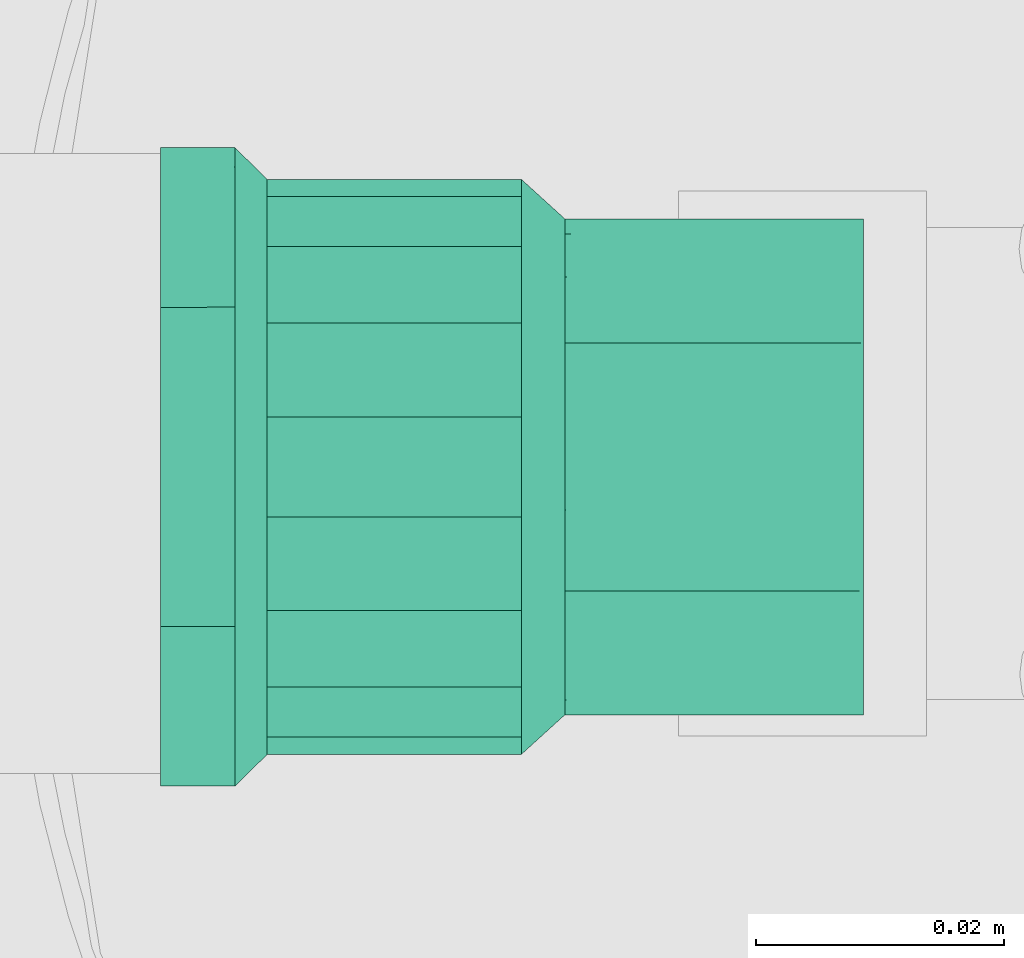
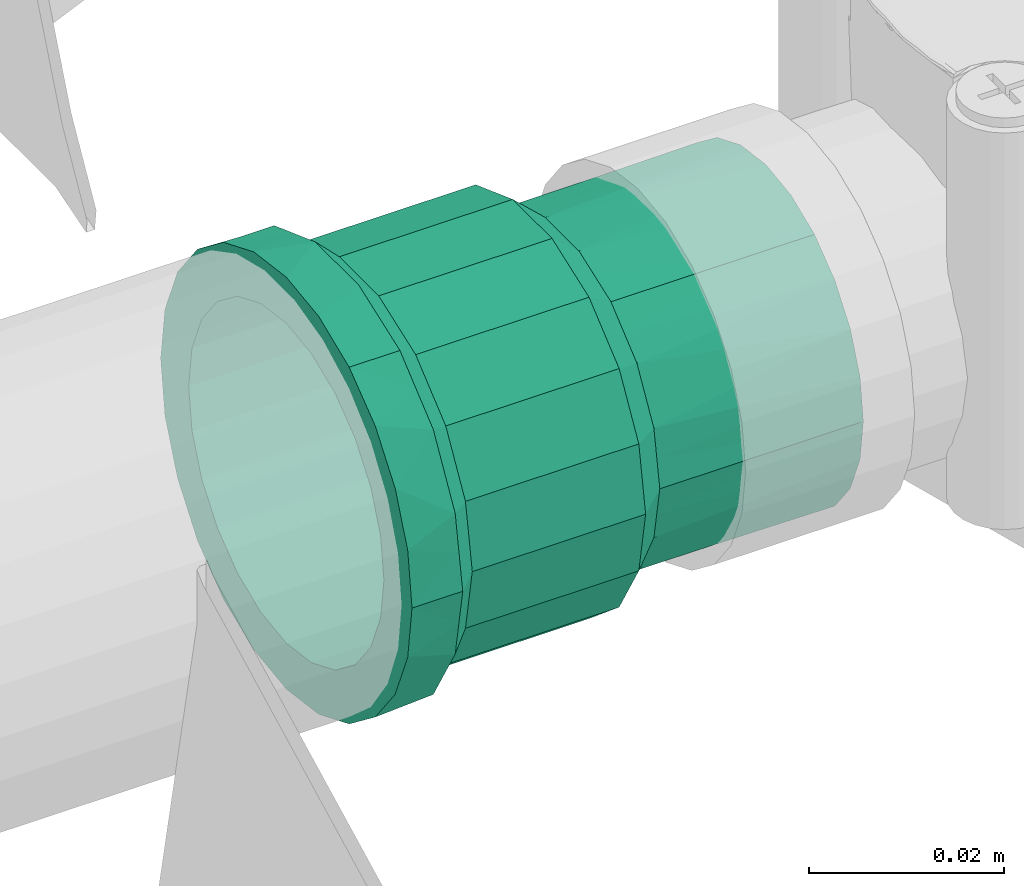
# One storey, part 143 of 166: 1 flow fitting.
"""IFC2X3 building model written with IfcOpenShell, lengths in metres."""

from ifc_helpers import new_model, entity, si_unit, converted_unit, direction, frame, origin, place, context, subcontext, project, spatial, faceted_brep, source, transform, mapped, material, type_object, type_shapes, element, save


model = new_model("IFC2X3")

# Units and contexts
model_context = context("Model", 3, precision=1e-05, world=origin(), true_north=direction((6.123233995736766e-17, 1.0)))
body_context = subcontext(model_context, "Body", "Model", "MODEL_VIEW")
ifc_project = project(units=[si_unit("LENGTHUNIT", "METRE"), converted_unit("PLANEANGLEUNIT", "DEGREE", entity("IfcPlaneAngleMeasure", 0.017453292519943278), si_unit("PLANEANGLEUNIT", "RADIAN"), dimensions=[0, 0, 0, 0, 0, 0, 0]), si_unit("AREAUNIT", "SQUARE_METRE")], contexts=[model_context])

# Site, building, storey
site_placement = place(None, origin())
site = spatial("IfcSite", under=ifc_project, at=site_placement, Name="Default", CompositionType="ELEMENT")
building_placement = place(site_placement, origin())
building = spatial("IfcBuilding", under=site, at=building_placement, Name="CASA DE ACOLHIDA PARA IDOSOS", CompositionType="ELEMENT")
storey_placement = place(building_placement, frame((0.0, 0.0, -1.7499999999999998)))
storey = spatial("IfcBuildingStorey", under=building, at=storey_placement, Name="IMPLANTAÇÃO DRENAGEM", CompositionType="ELEMENT", Elevation=-1.7499999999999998)

# Flow fitting
ifc_material = material(Name="PVC Marrom")
pipe_fitting_type = type_object("IfcPipeFittingType", Name="AF_Soldavel_Adaptador Curto com Bolsa e Rosca:Standard", PredefinedType="NOTDEFINED", material=ifc_material)
shared_shape = source(origin(), body_context, "Body", "Brep", [
    faceted_brep([(0.0, 0.0099999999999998, -0.017320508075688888), (0.0, 0.018207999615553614, -0.018207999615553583), (0.0, 0.012875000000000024, -0.02230015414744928), (0.0, 0.014142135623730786, -0.014142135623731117), (0.0, 0.0051763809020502, -0.019318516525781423), (0.0, 0.022300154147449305, -0.01287499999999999), (0.0, 0.01732050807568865, -0.01000000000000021), (0.0, 0.0193185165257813, -0.005176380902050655), (0.0, 0.02487259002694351, -0.006664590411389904), (0.0, 0.02, 0.0), (0.0, 0.025750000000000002, 0.0), (0.0, 0.019318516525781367, 0.00517638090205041), (0.0, 0.024872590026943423, 0.006664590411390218), (0.0, 0.01732050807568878, 0.00999999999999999), (0.0, 0.02230015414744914, 0.012875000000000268), (0.0, 0.014142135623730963, 0.014142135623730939), (0.0, 0.018207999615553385, 0.018207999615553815), (0.0, 0.010000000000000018, 0.017320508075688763), (0.0, 0.012874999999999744, 0.022300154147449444), (0.0, 0.00517638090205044, 0.01931851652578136), (0.0, 0.006664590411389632, 0.024872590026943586), (0.0, 0.0, 0.02), (0.0, 0.0, 0.025750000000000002), (0.0, -0.005176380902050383, 0.019318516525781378), (0.0, -0.0066645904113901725, 0.024872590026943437), (0.0, -0.009999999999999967, 0.017320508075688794), (0.0, -0.012875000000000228, 0.022300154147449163), (0.0, -0.01414213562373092, 0.014142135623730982), (0.0, -0.01820799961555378, 0.01820799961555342), (0.0, -0.01732050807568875, 0.010000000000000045), (0.0, -0.02230015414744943, 0.012874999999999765), (0.0, -0.024872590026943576, 0.006664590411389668), (0.0, -0.01931851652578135, 0.005176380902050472), (0.0, -0.025750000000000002, 0.0), (0.0, -0.02, 0.0), (0.0, -0.02487259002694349, -0.006664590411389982), (0.0, -0.01931851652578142, -0.005176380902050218), (0.0, -0.02230015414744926, -0.012875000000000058), (0.0, -0.01732050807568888, -0.009999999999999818), (0.0, -0.01820799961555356, -0.018207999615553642), (0.0, -0.014142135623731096, -0.014142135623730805), (0.0, -0.012874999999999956, -0.022300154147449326), (0.0, -0.010000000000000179, -0.01732050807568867), (0.0, -0.006664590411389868, -0.024872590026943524), (0.0, -0.005176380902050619, -0.01931851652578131), (0.0, 0.0, -0.025750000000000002), (0.0, 0.0, -0.02), (0.0, 0.006664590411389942, -0.0248725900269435), (0.005999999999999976, -0.024973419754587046, 0.004403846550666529), (0.005999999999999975, -0.024768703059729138, 0.005564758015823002), (0.005999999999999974, -0.024196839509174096, 0.008807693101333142), (0.005999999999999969, -0.019724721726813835, 0.016552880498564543), (0.005999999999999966, -0.016298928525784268, 0.019427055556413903), (0.005999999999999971, -0.021960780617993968, 0.012680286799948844), (0.005999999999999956, -0.004468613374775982, 0.02535929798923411), (0.00599999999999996, -0.008670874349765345, 0.02383026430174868), (0.0059999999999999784, -0.025750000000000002, 0.0), (0.0059999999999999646, -0.01287313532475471, 0.02230123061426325), (0.005999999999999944, 0.008676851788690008, 0.023828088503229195), (0.00599999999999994, 0.012878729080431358, 0.022298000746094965), (0.005999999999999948, 0.004474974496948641, 0.02535817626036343), (0.005999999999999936, 0.016303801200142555, 0.019422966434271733), (0.005999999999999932, 0.019728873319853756, 0.016547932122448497), (0.005999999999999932, 0.024199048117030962, 0.008801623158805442), (0.0059999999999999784, 0.025750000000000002, 0.0), (0.005999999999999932, 0.021963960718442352, 0.012674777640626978), (0.0059999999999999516, 3.180561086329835e-06, 0.02535873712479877), (0.006000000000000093, 0.024199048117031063, -0.00880162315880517), (0.006000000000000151, 0.019728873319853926, -0.016547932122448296), (0.006000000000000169, 0.01630380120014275, -0.019422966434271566), (0.006000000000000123, 0.021963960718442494, -0.012674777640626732), (0.006000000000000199, 0.004474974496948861, -0.025358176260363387), (0.006000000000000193, 0.008676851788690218, -0.023828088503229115), (0.006000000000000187, 0.012878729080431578, -0.02229800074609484), (0.006000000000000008, -0.02497341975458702, -0.004403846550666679), (0.006000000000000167, -0.008670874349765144, -0.023830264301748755), (0.0060000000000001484, -0.012873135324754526, -0.022301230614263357), (0.006000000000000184, -0.004468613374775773, -0.02535929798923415), (0.006000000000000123, -0.016298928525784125, -0.019427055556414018), (0.006000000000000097, -0.01972472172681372, -0.016552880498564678), (0.006000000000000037, -0.024196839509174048, -0.008807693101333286), (0.006000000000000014, -0.024768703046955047, -0.005564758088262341), (0.006000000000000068, -0.021960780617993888, -0.012680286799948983), (0.006000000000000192, 3.1805610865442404e-06, -0.02535873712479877), (0.029099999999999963, -0.021800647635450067, 0.007935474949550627), (0.008600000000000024, -0.021800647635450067, 0.007935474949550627), (0.008600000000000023, -0.022500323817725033, 0.0039677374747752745), (0.00860000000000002, -0.023200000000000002, 0.0), (0.02910000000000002, -0.023200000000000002, 0.0), (0.02909999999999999, -0.022482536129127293, 0.004068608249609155), (0.02909999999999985, -0.011598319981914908, 0.020092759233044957), (0.00860000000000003, -0.011598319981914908, 0.020092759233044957), (0.00860000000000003, -0.014684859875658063, 0.017503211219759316), (0.008600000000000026, -0.017771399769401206, 0.014913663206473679), (0.029099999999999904, -0.017771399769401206, 0.014913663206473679), (0.02909999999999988, -0.014684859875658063, 0.017503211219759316), (0.008600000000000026, -0.019786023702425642, 0.011424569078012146), (0.02909999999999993, -0.019786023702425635, 0.01142456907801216), (0.00860000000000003, -0.007812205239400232, 0.02147037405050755), (0.02909999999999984, -0.007812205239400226, 0.021470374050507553), (0.029099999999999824, -0.004026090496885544, 0.02284798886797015), (0.00860000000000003, -0.004026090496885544, 0.02284798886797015), (0.00860000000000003, 2.8655929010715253e-06, 0.022847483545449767), (0.029099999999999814, 2.8655929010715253e-06, 0.022847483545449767), (0.029099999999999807, 0.004031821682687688, 0.022846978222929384), (0.00860000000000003, 0.004031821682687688, 0.022846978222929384), (0.029099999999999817, 0.011603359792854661, 0.020089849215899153), (0.00860000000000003, 0.011603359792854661, 0.020089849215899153), (0.00860000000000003, 0.007817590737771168, 0.021468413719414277), (0.029099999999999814, 0.007817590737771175, 0.021468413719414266), (0.029099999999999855, 0.017775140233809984, 0.014909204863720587), (0.00860000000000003, 0.017775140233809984, 0.014909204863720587), (0.00860000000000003, 0.01468925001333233, 0.017499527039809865), (0.02909999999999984, 0.014689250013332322, 0.01749952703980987), (0.02909999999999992, 0.021802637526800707, 0.00793000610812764), (0.008600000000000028, 0.021802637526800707, 0.00793000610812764), (0.00860000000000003, 0.019788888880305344, 0.01141960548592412), (0.02909999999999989, 0.019788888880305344, 0.011419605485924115), (0.02910000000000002, 0.023200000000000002, 0.0), (0.00860000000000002, 0.023200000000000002, 0.0), (0.029100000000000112, 0.021802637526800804, -0.007930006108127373), (0.008600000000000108, 0.021802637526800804, -0.007930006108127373), (0.00860000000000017, -0.011598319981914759, -0.020092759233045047), (0.02910000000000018, -0.011598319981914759, -0.020092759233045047), (0.02910000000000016, -0.01468485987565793, -0.017503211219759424), (0.029100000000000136, -0.0177713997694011, -0.014913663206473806), (0.008600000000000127, -0.0177713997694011, -0.014913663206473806), (0.00860000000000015, -0.01468485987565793, -0.017503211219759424), (0.0086000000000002, 0.01160335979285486, -0.020089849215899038), (0.00860000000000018, 0.014689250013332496, -0.017499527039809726), (0.008600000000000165, 0.017775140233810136, -0.014909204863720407), (0.02910000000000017, 0.017775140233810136, -0.014909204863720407), (0.029100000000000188, 0.014689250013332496, -0.017499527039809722), (0.02910000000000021, 0.01160335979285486, -0.020089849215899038), (0.029100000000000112, -0.01978602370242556, -0.011424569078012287), (0.02910000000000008, -0.021800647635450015, -0.007935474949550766), (0.008600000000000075, -0.021800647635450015, -0.007935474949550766), (0.0086000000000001, -0.01978602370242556, -0.011424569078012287), (0.008600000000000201, -0.004026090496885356, -0.022847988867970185), (0.029100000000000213, -0.004026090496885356, -0.022847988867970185), (0.029100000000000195, -0.007812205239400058, -0.021470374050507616), (0.008600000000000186, -0.007812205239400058, -0.021470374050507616), (0.008600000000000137, 0.019788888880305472, -0.01141960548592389), (0.029100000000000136, 0.01978888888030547, -0.01141960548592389), (0.008600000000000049, -0.02250032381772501, -0.00396773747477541), (0.029100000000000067, -0.022258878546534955, -0.005336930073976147), (0.029100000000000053, -0.02248253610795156, -0.004068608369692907), (0.008600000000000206, 0.00781759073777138, -0.02146841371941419), (0.029100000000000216, 0.00781759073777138, -0.02146841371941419), (0.029100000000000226, 0.0040318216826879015, -0.022846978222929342), (0.008600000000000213, 0.0040318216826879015, -0.022846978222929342), (0.008600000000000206, 2.8655929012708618e-06, -0.022847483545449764), (0.02910000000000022, 2.8655929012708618e-06, -0.022847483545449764), (0.056699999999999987, 0.0, -0.02), (0.056699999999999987, 0.00517638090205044, -0.01931851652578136), (0.056699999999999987, 0.010000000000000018, -0.017320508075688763), (0.056699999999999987, 0.014142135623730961, -0.01414213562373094), (0.056699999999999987, 0.01732050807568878, -0.009999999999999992), (0.056699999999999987, 0.019318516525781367, -0.00517638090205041), (0.056699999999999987, 0.02, 0.0), (0.056699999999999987, 0.0193185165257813, 0.005176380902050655), (0.056699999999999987, 0.01732050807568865, 0.01000000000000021), (0.056699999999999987, 0.014142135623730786, 0.014142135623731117), (0.056699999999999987, 0.0099999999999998, 0.017320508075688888), (0.056699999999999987, 0.0051763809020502, 0.019318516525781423), (0.056699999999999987, 0.0, 0.02), (0.056699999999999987, -0.005176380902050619, 0.01931851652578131), (0.056699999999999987, -0.010000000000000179, 0.01732050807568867), (0.056699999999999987, -0.014142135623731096, 0.014142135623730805), (0.056699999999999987, -0.01732050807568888, 0.009999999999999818), (0.056699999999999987, -0.01931851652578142, 0.005176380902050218), (0.056699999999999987, -0.02, 0.0), (0.056699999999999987, -0.01931851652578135, -0.005176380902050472), (0.056699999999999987, -0.01732050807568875, -0.010000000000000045), (0.056699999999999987, -0.01414213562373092, -0.014142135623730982), (0.056699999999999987, -0.009999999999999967, -0.017320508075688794), (0.056699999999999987, -0.005176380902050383, -0.019318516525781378), (0.03261999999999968, -0.0067346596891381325, 0.018508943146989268), (0.03261999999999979, -0.015320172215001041, 0.012856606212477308), (0.03261999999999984, -0.017056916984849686, 0.0098487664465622), (0.032619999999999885, -0.01879366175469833, 0.006840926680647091), (0.032619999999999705, -0.009998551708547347, 0.01732134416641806), (0.032619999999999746, -0.012659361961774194, 0.015088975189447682), (0.03261999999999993, -0.019188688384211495, 0.004600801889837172), (0.032619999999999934, -0.01939683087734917, 0.0034204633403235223), (0.03261999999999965, -0.0034707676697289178, 0.019696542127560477), (0.03261999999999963, 0.0034757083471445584, 0.019695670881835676), (0.032619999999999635, 2.470338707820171e-06, 0.019696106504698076), (0.03261999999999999, -0.02, 0.0), (0.032619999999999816, 0.01879537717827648, 0.006836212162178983), (0.03261999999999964, 0.006739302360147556, 0.018507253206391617), (0.03261999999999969, 0.012663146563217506, 0.0150857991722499), (0.032619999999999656, 0.010002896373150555, 0.017318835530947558), (0.03261999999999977, 0.01705938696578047, 0.009844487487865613), (0.03261999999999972, 0.015323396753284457, 0.012852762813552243), (0.03261999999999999, 0.02, 0.0), (0.03262000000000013, 0.015323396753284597, -0.012852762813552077), (0.0326200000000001, 0.017059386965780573, -0.009844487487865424), (0.03262000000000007, 0.018795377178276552, -0.006836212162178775), (0.032620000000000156, 0.010002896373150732, -0.017318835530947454), (0.03262000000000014, 0.012663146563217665, -0.015085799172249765), (0.03262000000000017, 0.0034757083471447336, -0.019695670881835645), (0.03262000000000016, 0.006739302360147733, -0.01850725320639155), (0.032620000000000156, -0.0034707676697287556, -0.019696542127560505), (0.03262000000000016, 2.4703387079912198e-06, -0.019696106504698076), (0.03262000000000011, -0.012659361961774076, -0.015088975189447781), (0.032620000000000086, -0.015320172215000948, -0.01285660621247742), (0.03262000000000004, -0.018793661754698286, -0.006840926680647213), (0.03262000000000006, -0.01705691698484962, -0.009848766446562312), (0.03262000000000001, -0.01939683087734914, -0.0034204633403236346), (0.03262000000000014, -0.006734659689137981, -0.018508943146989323), (0.03262000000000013, -0.009998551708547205, -0.017321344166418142), (0.00860000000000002, -0.02, 0.0), (0.02910000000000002, -0.02, 0.0), (0.02910000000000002, -0.019318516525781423, -0.005176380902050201), (0.00860000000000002, -0.019318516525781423, -0.005176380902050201), (0.0059999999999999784, -0.019318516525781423, -0.005176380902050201), (0.0059999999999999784, -0.02, 0.0), (0.02910000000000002, -0.017320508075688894, -0.009999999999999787), (0.00860000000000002, -0.017320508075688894, -0.009999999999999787), (0.0059999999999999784, -0.017320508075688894, -0.009999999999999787), (0.00860000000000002, -0.010000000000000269, -0.017320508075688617), (0.0059999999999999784, -0.010000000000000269, -0.017320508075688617), (0.0059999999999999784, -0.014142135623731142, -0.01414213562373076), (0.00860000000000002, -0.014142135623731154, -0.014142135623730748), (0.02910000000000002, -0.014142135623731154, -0.014142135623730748), (0.02910000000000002, -0.010000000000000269, -0.017320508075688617), (0.00860000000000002, -0.005176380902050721, -0.019318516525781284), (0.0059999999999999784, -0.005176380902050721, -0.019318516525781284), (0.02910000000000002, -0.005176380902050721, -0.019318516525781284), (0.02910000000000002, 0.0, -0.02), (0.00860000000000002, 0.0, -0.02), (0.0059999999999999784, 0.0, -0.02), (0.02910000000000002, 0.005176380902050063, -0.01931851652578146), (0.00860000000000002, 0.005176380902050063, -0.01931851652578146), (0.0059999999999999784, 0.005176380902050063, -0.01931851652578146), (0.02910000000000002, 0.009999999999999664, -0.017320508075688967), (0.00860000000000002, 0.009999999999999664, -0.017320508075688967), (0.0059999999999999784, 0.009999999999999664, -0.017320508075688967), (0.00860000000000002, 0.017320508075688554, -0.010000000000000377), (0.0059999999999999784, 0.017320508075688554, -0.010000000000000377), (0.0059999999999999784, 0.01414213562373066, -0.014142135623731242), (0.00860000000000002, 0.014142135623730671, -0.01414213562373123), (0.02910000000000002, 0.014142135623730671, -0.01414213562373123), (0.02910000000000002, 0.017320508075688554, -0.010000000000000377), (0.00860000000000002, 0.019318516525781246, -0.00517638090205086), (0.0059999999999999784, 0.019318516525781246, -0.00517638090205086), (0.02910000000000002, 0.019318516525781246, -0.00517638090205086), (0.02910000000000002, 0.02, 0.0), (0.00860000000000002, 0.02, 0.0), (0.0059999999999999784, 0.02, 0.0), (0.02910000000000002, 0.01931851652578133, 0.005176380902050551), (0.00860000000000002, 0.01931851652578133, 0.005176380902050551), (0.0059999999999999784, 0.01931851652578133, 0.005176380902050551), (0.02910000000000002, 0.017320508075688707, 0.010000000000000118), (0.00860000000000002, 0.017320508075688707, 0.010000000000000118), (0.0059999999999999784, 0.017320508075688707, 0.010000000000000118), (0.00860000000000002, 0.009999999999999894, 0.017320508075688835), (0.0059999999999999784, 0.009999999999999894, 0.017320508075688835), (0.0059999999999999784, 0.014142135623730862, 0.014142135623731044), (0.00860000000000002, 0.014142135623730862, 0.014142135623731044), (0.02910000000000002, 0.014142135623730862, 0.014142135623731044), (0.02910000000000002, 0.009999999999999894, 0.017320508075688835), (0.00860000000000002, 0.005176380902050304, 0.019318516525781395), (0.0059999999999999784, 0.005176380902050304, 0.019318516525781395), (0.02910000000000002, 0.005176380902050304, 0.019318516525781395), (0.02910000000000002, 0.0, 0.02), (0.00860000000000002, 0.0, 0.02), (0.0059999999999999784, 0.0, 0.02), (0.02910000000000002, -0.005176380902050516, 0.01931851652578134), (0.00860000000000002, -0.005176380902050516, 0.01931851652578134), (0.0059999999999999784, -0.005176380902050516, 0.01931851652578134), (0.00860000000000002, -0.019318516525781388, 0.005176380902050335), (0.0059999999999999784, -0.019318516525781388, 0.005176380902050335), (0.0059999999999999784, -0.017320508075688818, 0.009999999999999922), (0.00860000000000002, -0.017320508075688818, 0.009999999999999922), (0.02910000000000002, -0.017320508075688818, 0.009999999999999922), (0.02910000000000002, -0.019318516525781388, 0.005176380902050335), (0.00860000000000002, -0.014142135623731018, 0.014142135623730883), (0.02910000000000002, -0.014142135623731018, 0.014142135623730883), (0.0059999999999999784, -0.014142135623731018, 0.014142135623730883), (0.02910000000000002, -0.010000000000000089, 0.017320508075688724), (0.00860000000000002, -0.010000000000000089, 0.017320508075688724), (0.0059999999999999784, -0.010000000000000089, 0.017320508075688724)], [[[0, 1, 2]], [[3, 1, 0]], [[4, 0, 2]], [[1, 3, 5]], [[5, 3, 6]], [[5, 6, 7]], [[8, 5, 7]], [[9, 8, 7]], [[10, 8, 9]], [[10, 9, 11]], [[12, 10, 11]], [[12, 11, 13]], [[14, 12, 13]], [[14, 13, 15]], [[15, 16, 14]], [[15, 17, 16]], [[18, 16, 17]], [[19, 18, 17]], [[18, 19, 20]], [[21, 20, 19]], [[22, 20, 21]], [[21, 23, 22]], [[24, 22, 23]], [[25, 24, 23]], [[24, 25, 26]], [[25, 27, 26]], [[27, 28, 26]], [[28, 27, 29]], [[28, 29, 30]], [[30, 29, 31]], [[31, 29, 32]], [[33, 31, 32]], [[32, 34, 33]], [[33, 34, 35]], [[34, 36, 35]], [[37, 35, 36]], [[37, 36, 38]], [[39, 37, 38]], [[40, 39, 38]], [[40, 41, 39]], [[42, 41, 40]], [[43, 41, 42]], [[42, 44, 43]], [[43, 44, 45]], [[44, 46, 45]], [[46, 4, 47]], [[45, 46, 47]], [[2, 47, 4]], [[31, 48, 49, 50]], [[28, 51, 52]], [[51, 30, 50, 53]], [[54, 24, 55]], [[30, 31, 50]], [[56, 48, 33]], [[52, 57, 26]], [[52, 26, 28]], [[30, 51, 28]], [[58, 59, 18]], [[58, 18, 20]], [[26, 57, 55]], [[26, 55, 24]], [[22, 24, 54]], [[33, 48, 31]], [[20, 60, 58]], [[16, 61, 62]], [[12, 63, 64]], [[63, 14, 62, 65]], [[12, 64, 10]], [[18, 61, 16]], [[22, 54, 66, 60]], [[22, 60, 20]], [[14, 16, 62]], [[59, 61, 18]], [[14, 63, 12]], [[8, 64, 67]], [[1, 68, 69]], [[68, 5, 67, 70]], [[71, 47, 72]], [[5, 8, 67]], [[8, 10, 64]], [[2, 72, 47]], [[69, 73, 2]], [[5, 68, 1]], [[74, 33, 35]], [[75, 76, 41]], [[2, 73, 72]], [[75, 41, 43]], [[45, 47, 71]], [[69, 2, 1]], [[43, 77, 75]], [[39, 78, 79]], [[35, 80, 81, 74]], [[80, 37, 79, 82]], [[37, 80, 35]], [[41, 78, 39]], [[45, 71, 83, 77]], [[45, 77, 43]], [[37, 39, 79]], [[76, 78, 41]], [[74, 56, 33]], [[84, 85, 86, 87, 88, 89]], [[90, 91, 92, 93, 94, 95]], [[96, 85, 84, 97, 94, 93]], [[98, 91, 90, 99, 100, 101]], [[102, 101, 100, 103, 104, 105]], [[106, 107, 108, 105, 104, 109]], [[110, 111, 112, 107, 106, 113]], [[114, 115, 116, 111, 110, 117]], [[114, 118, 119, 115]], [[119, 118, 120, 121]], [[122, 123, 124, 125, 126, 127]], [[128, 129, 130, 131, 132, 133]], [[134, 135, 136, 137, 126, 125]], [[138, 139, 140, 123, 122, 141]], [[142, 121, 120, 143, 131, 130]], [[88, 87, 144, 136, 135, 145, 146]], [[147, 128, 133, 148, 149, 150]], [[151, 150, 149, 152, 139, 138]], [[153, 154, 155, 156, 157, 158, 159, 160, 161, 162, 163, 164, 165, 166, 167, 168, 169, 170, 171, 172, 173, 174, 175, 176]], [[177, 167, 166]], [[169, 168, 178]], [[169, 178, 179, 180]], [[181, 182, 167]], [[170, 180, 183, 184]], [[166, 185, 177]], [[178, 168, 182]], [[165, 186, 187, 185]], [[167, 182, 168]], [[184, 171, 170]], [[184, 188, 171]], [[169, 180, 170]], [[164, 186, 165]], [[161, 160, 189]], [[163, 190, 164]], [[191, 192, 163]], [[161, 189, 193, 194]], [[195, 160, 159]], [[190, 186, 164]], [[163, 192, 190]], [[161, 194, 162]], [[177, 181, 167]], [[162, 194, 191]], [[191, 163, 162]], [[160, 195, 189]], [[165, 185, 166]], [[195, 159, 158]], [[157, 156, 196]], [[157, 196, 197, 198]], [[199, 200, 155]], [[198, 195, 158]], [[154, 201, 202]], [[196, 156, 200]], [[153, 203, 204, 201]], [[153, 201, 154]], [[155, 200, 156]], [[205, 175, 174]], [[202, 155, 154]], [[202, 199, 155]], [[173, 206, 174]], [[157, 198, 158]], [[173, 172, 207]], [[173, 207, 208, 206]], [[171, 209, 172]], [[171, 188, 209]], [[176, 210, 203]], [[203, 153, 176]], [[211, 210, 175]], [[175, 210, 176]], [[174, 206, 205]], [[209, 207, 172]], [[205, 211, 175]], [[212, 213, 214, 215, 216, 36, 34, 217]], [[215, 214, 218, 219, 220, 38, 36, 216]], [[221, 222, 42, 40, 223, 224, 225, 226]], [[225, 224, 223, 40, 38, 220, 219, 218]], [[227, 228, 44, 42, 222, 221, 226, 229]], [[227, 229, 230, 231, 232, 46, 44, 228]], [[231, 230, 233, 234, 235, 4, 46, 232]], [[234, 233, 236, 237, 238, 0, 4, 235]], [[239, 240, 6, 3, 241, 242, 243, 244]], [[243, 242, 241, 3, 0, 238, 237, 236]], [[245, 246, 7, 6, 240, 239, 244, 247]], [[247, 248, 249, 250, 9, 7, 246, 245]], [[249, 248, 251, 252, 253, 11, 9, 250]], [[252, 251, 254, 255, 256, 13, 11, 253]], [[257, 258, 17, 15, 259, 260, 261, 262]], [[261, 260, 259, 15, 13, 256, 255, 254]], [[263, 264, 19, 17, 258, 257, 262, 265]], [[263, 265, 266, 267, 268, 21, 19, 264]], [[269, 270, 271, 23, 21, 268, 267, 266]], [[272, 273, 32, 29, 274, 275, 276, 277]], [[278, 279, 276, 275, 274, 29, 27, 280]], [[212, 217, 34, 32, 273, 272, 277, 213]], [[281, 282, 283, 25, 23, 271, 270, 269]], [[279, 278, 280, 27, 25, 283, 282, 281]], [[119, 121, 67, 64]], [[128, 73, 69, 68, 130, 129]], [[73, 128, 147, 150, 71, 72]], [[130, 68, 70, 67, 121, 142]], [[77, 138, 141, 122, 76, 75]], [[136, 80, 82, 79, 126, 137]], [[81, 80, 136, 144, 87, 56, 74]], [[83, 71, 150, 151, 138, 77]], [[78, 76, 122, 127, 126, 79]], [[85, 50, 49, 48, 56, 87, 86]], [[53, 50, 85, 96, 93, 51]], [[52, 51, 93, 92, 91, 57]], [[91, 98, 101, 54, 55, 57]], [[102, 105, 60, 66, 54, 101]], [[108, 107, 59, 58, 60, 105]], [[115, 119, 64, 63]], [[111, 116, 115, 63, 65, 62]], [[107, 112, 111, 62, 61, 59]], [[230, 229, 226, 225, 218, 214, 213, 277, 276, 279, 281, 269, 266, 265, 262, 261, 254, 251, 248, 247, 244, 243, 236, 233]], [[84, 89, 88, 188, 184, 183, 180]], [[185, 100, 99, 90, 181, 177]], [[95, 94, 178, 182, 181, 90]], [[97, 84, 180, 179, 178, 94]], [[100, 185, 187, 186, 104, 103]], [[189, 114, 117, 110, 194, 193]], [[104, 186, 190, 192, 106, 109]], [[189, 195, 118, 114]], [[113, 106, 192, 191, 194, 110]], [[195, 198, 120, 118]], [[133, 199, 202, 201, 149, 148]], [[199, 133, 132, 131, 196, 200]], [[143, 120, 198, 197, 196, 131]], [[139, 203, 210, 211, 123, 140]], [[207, 135, 134, 125, 206, 208]], [[145, 135, 207, 209, 188, 88, 146]], [[152, 149, 201, 204, 203, 139]], [[124, 123, 211, 205, 206, 125]]]),
])
type_shapes(pipe_fitting_type, [shared_shape])
flow_fitting_placement = place(storey_placement, frame((-49.256169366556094, -3.5453286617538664, -0.20000000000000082)))
element("IfcFlowFitting", 1, at=flow_fitting_placement, inside=storey, type_object=pipe_fitting_type, material=ifc_material, Name="AF_Soldavel_Adaptador Curto com Bolsa e Rosca:Standard", ObjectType="AF_Soldavel_Adaptador Curto com Bolsa e Rosca:Standard", context=body_context, shape_type="MappedRepresentation", body=[
    mapped(shared_shape, transform((0.0, 0.0, 0.0), scale=1.0)),
])

save(model, "model.ifc")
